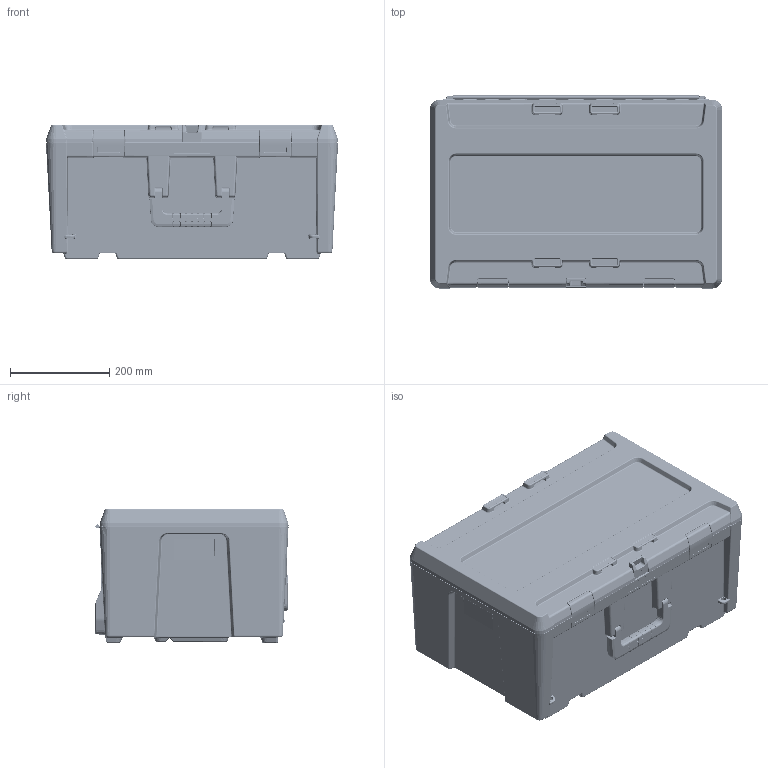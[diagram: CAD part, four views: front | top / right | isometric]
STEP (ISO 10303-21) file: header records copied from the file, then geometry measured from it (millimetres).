
FILE_DESCRIPTION(/* description */ (''),/* implementation_level */ '2;1');
FILE_NAME(/* name */ 'Flexicase_6427.stp',/* time_stamp */ '2017-12-08T10:27:06+01:00',/* author */ (''),/* organization */ (''),/* preprocessor_version */ 'ST-DEVELOPER v15',/* originating_system */ 'SIEMENS PLM Software NX 9.0',/* authorisation */ '');
FILE_SCHEMA (('AUTOMOTIVE_DESIGN { 1 0 10303 214 3 1 1 1 }'));
Products named in the file (1): sn3F409F20mohr
Bounding box: 590 x 390 x 270.5 mm (x, y, z)
Volume: 3298935.2 mm3; surface area: 2036822.8 mm2
Topology: 10 solids, 13 shells, 9699 faces, 23396 edges, 13954 vertices
Faces by surface type: plane 3669, cylinder 2802, bspline 2128, torus 584, cone 376, sphere 140
Full cylindrical faces by diameter (mm): 8 x1
Entity records: 370574 total; most frequent: CARTESIAN_POINT 140718, ORIENTED_EDGE 46278, DIRECTION 43644, EDGE_CURVE 23139, AXIS2_PLACEMENT_3D 15716, VERTEX_POINT 13938, LINE 12212, VECTOR 12212
